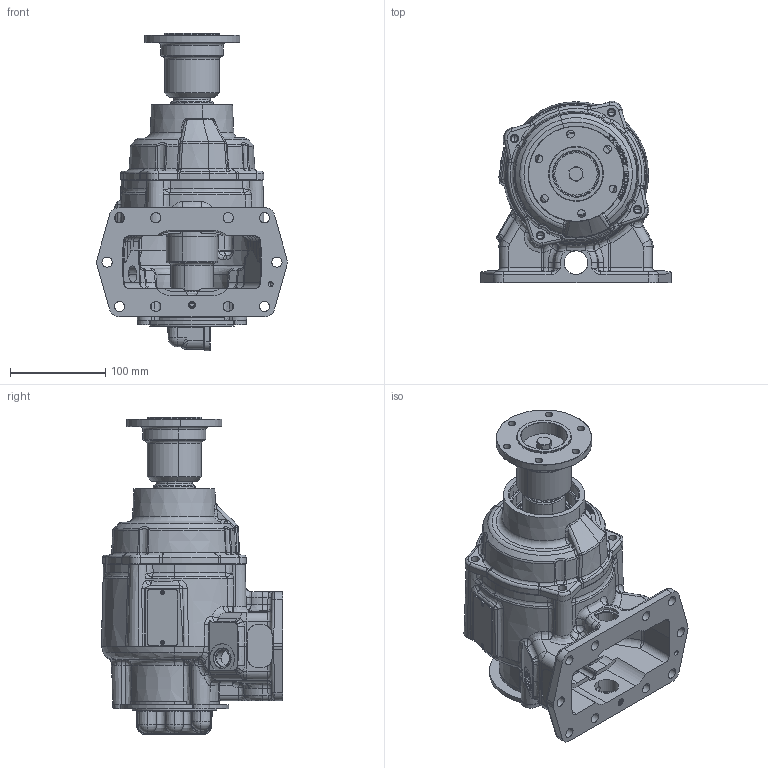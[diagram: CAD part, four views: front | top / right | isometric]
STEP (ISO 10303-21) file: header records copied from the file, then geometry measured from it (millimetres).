
FILE_DESCRIPTION (( 'STEP AP203' ), '1' );
FILE_NAME ('A30-A10XX-MX1X5PX.STEP', '2021-07-22T20:10:46', ( '' ), ( '' ), 'SwSTEP 2.0', 'SolidWorks 2021', '' );
FILE_SCHEMA (( 'CONFIG_CONTROL_DESIGN' ));
Products named in the file (1): A30-A10XX-MX1X5PX
Bounding box: 199.82 x 190.12 x 332.7 mm (x, y, z)
Volume: 1895418.8 mm3; surface area: 476928.8 mm2
Topology: 21 solids, 21 shells, 2648 faces, 6721 edges, 4126 vertices
Faces by surface type: plane 937, bspline 714, cylinder 512, cone 335, torus 150
Entity records: 119140 total; most frequent: CARTESIAN_POINT 60552, ORIENTED_EDGE 13330, DIRECTION 10716, EDGE_CURVE 6665, VERTEX_POINT 4126, AXIS2_PLACEMENT_3D 3974, EDGE_LOOP 2843, VECTOR 2768
